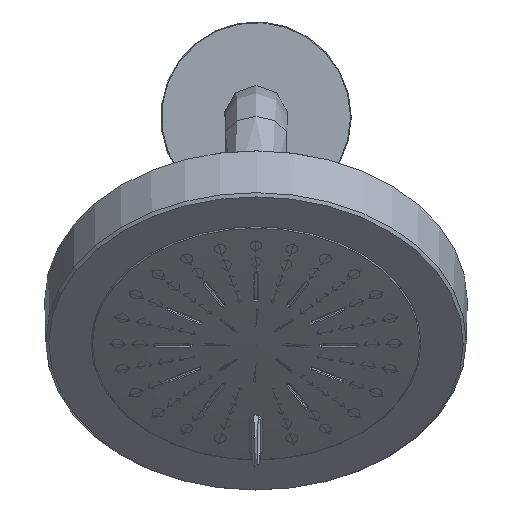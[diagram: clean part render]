
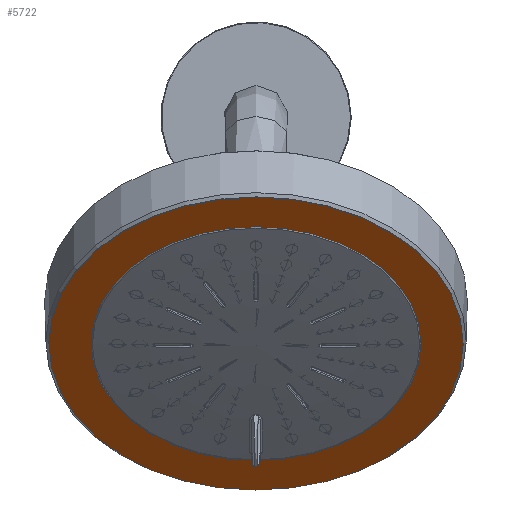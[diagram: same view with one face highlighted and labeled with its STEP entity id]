
A CAD part, front view. The second image highlights one B-rep face of the part: STEP entity #5722.
In plain terms, the highlighted planar face has unit normal (0, -0.707, -0.707).
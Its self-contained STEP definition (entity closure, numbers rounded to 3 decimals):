
#410=FACE_BOUND('',#1336,.T.);
#524=CIRCLE('',#6134,68.497);
#525=CIRCLE('',#6135,54.565);
#928=FACE_OUTER_BOUND('',#1335,.T.);
#1335=EDGE_LOOP('',(#3636));
#1336=EDGE_LOOP('',(#3637));
#2299=VERTEX_POINT('',#9554);
#2300=VERTEX_POINT('',#9556);
#2823=EDGE_CURVE('',#2299,#2299,#524,.T.);
#2824=EDGE_CURVE('',#2300,#2300,#525,.T.);
#3636=ORIENTED_EDGE('',*,*,#2823,.T.);
#3637=ORIENTED_EDGE('',*,*,#2824,.F.);
#5221=PLANE('',#6133);
#5722=ADVANCED_FACE('',(#928,#410),#5221,.T.);
#6133=AXIS2_PLACEMENT_3D('',#9553,#6723,#6724);
#6134=AXIS2_PLACEMENT_3D('',#9555,#6725,#6726);
#6135=AXIS2_PLACEMENT_3D('',#9557,#6727,#6728);
#6723=DIRECTION('center_axis',(0.,-0.707,
-0.707));
#6724=DIRECTION('ref_axis',(-0.984,-0.126,0.126));
#6725=DIRECTION('center_axis',(0.,-0.707,
-0.707));
#6726=DIRECTION('ref_axis',(0.984,0.126,-0.126));
#6727=DIRECTION('center_axis',(0.,-0.707,
-0.707));
#6728=DIRECTION('ref_axis',(1.,0.,0.));
#9553=CARTESIAN_POINT('Origin',(0.,-155.321,-74.821));
#9554=CARTESIAN_POINT('',(-67.405,-163.936,-66.206));
#9555=CARTESIAN_POINT('Origin',(0.,-155.321,-74.821));
#9556=CARTESIAN_POINT('',(-54.565,-155.321,-74.821));
#9557=CARTESIAN_POINT('Origin',(0.,-155.321,-74.821));
